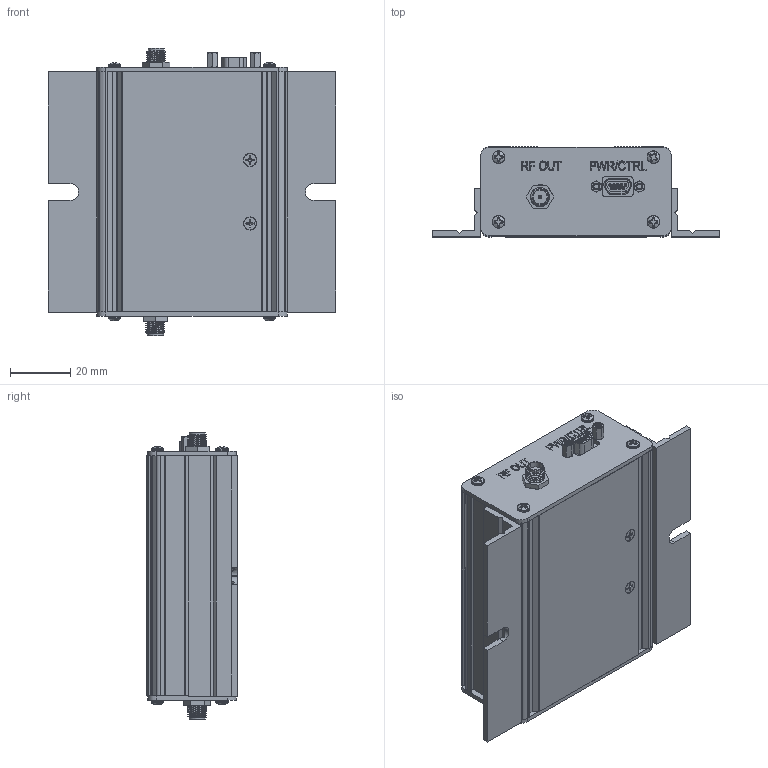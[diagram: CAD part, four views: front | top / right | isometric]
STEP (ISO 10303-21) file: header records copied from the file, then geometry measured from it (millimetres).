
FILE_DESCRIPTION (( 'STEP AP214' ), '1' );
FILE_NAME ('HILNA-HF-MF.STEP', '2025-03-31T12:57:09', ( '' ), ( '' ), 'SwSTEP 2.0', 'SolidWorks 2021', '' );
FILE_SCHEMA (( 'AUTOMOTIVE_DESIGN' ));
Length unit declared in the file: inch
Products named in the file (12): MDM JACK POST_91075A512; Flange_LSB80; HILNA-HF-MF; 91772A077_91772A077; PAS1_2; SMA_End_panel; 836119016; PAS1_3; HILNA HF PCB Assembly no cca just connectors; SMA NUT; HILNA Chassis; 91771A076_91771A076
Assembly tree (23 placements, depth 3):
  HILNA-HF-MF
    HILNA Chassis
    HILNA HF PCB Assembly no cca just connectors
      836119016
      SMA_End_panel  x2
    PAS1_3
    PAS1_2
    MDM JACK POST_91075A512  x2
    91772A077_91772A077  x8
    Flange_LSB80  x2
    SMA NUT  x2
    91771A076_91771A076  x2
Bounding box: 95.5 x 30 x 95.75 mm (x, y, z)
Volume: 55212.7 mm3; surface area: 59524.9 mm2
Topology: 24 solids, 24 shells, 2222 faces, 6150 edges, 4045 vertices
Faces by surface type: cylinder 990, plane 862, cone 212, bspline 110, torus 32, sphere 16
Entity records: 56870 total; most frequent: CARTESIAN_POINT 19667, ORIENTED_EDGE 6462, DIRECTION 5546, EDGE_CURVE 3231, VERTEX_POINT 2127, LINE 2074, VECTOR 2074, AXIS2_PLACEMENT_3D 1736
